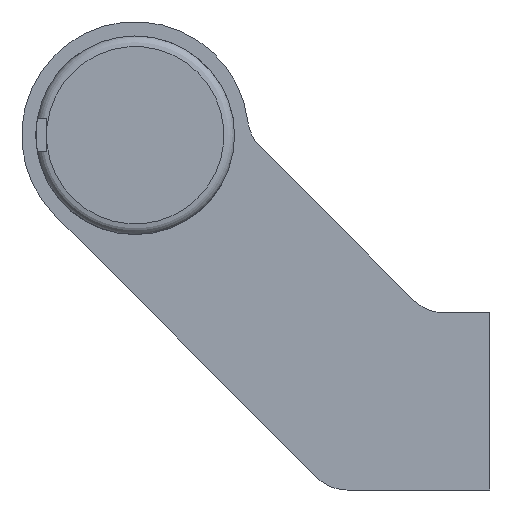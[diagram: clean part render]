
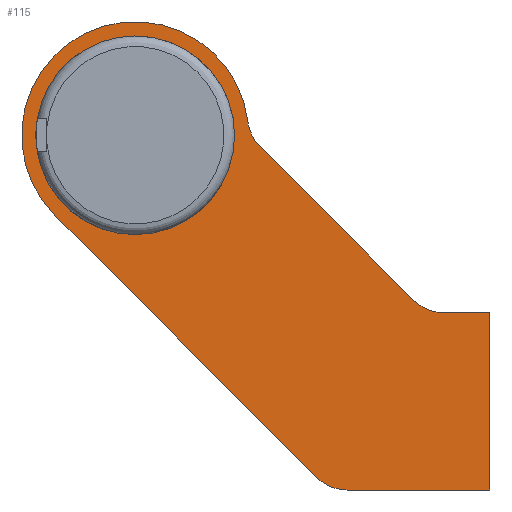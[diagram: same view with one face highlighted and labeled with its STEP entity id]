
A CAD part, left-side view. The second image highlights one B-rep face of the part: STEP entity #115.
In plain terms, the highlighted planar face has unit normal (-1, 0, 0).
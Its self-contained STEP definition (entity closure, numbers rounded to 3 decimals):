
#115 = ADVANCED_FACE( '', ( #215, #216 ), #217, .F. );
#215 = FACE_BOUND( '', #328, .T. );
#216 = FACE_OUTER_BOUND( '', #329, .T. );
#217 = PLANE( '', #330 );
#328 = EDGE_LOOP( '', ( #629 ) );
#329 = EDGE_LOOP( '', ( #630, #631, #632, #633, #634, #635, #636, #637, #638 ) );
#330 = AXIS2_PLACEMENT_3D( '', #639, #640, #641 );
#629 = ORIENTED_EDGE( '', *, *, #755, .T. );
#630 = ORIENTED_EDGE( '', *, *, #741, .F. );
#631 = ORIENTED_EDGE( '', *, *, #719, .F. );
#632 = ORIENTED_EDGE( '', *, *, #715, .F. );
#633 = ORIENTED_EDGE( '', *, *, #723, .F. );
#634 = ORIENTED_EDGE( '', *, *, #726, .F. );
#635 = ORIENTED_EDGE( '', *, *, #729, .T. );
#636 = ORIENTED_EDGE( '', *, *, #732, .F. );
#637 = ORIENTED_EDGE( '', *, *, #735, .T. );
#638 = ORIENTED_EDGE( '', *, *, #738, .F. );
#639 = CARTESIAN_POINT( '', ( -307., 50., 37.5 ) );
#640 = DIRECTION( '', ( 1., 0., 0. ) );
#641 = DIRECTION( '', ( 0., 0., -1. ) );
#715 = EDGE_CURVE( '', #840, #841, #842, .T. );
#719 = EDGE_CURVE( '', #841, #848, #849, .T. );
#723 = EDGE_CURVE( '', #855, #840, #856, .T. );
#726 = EDGE_CURVE( '', #860, #855, #861, .T. );
#729 = EDGE_CURVE( '', #860, #865, #866, .T. );
#732 = EDGE_CURVE( '', #870, #865, #871, .T. );
#735 = EDGE_CURVE( '', #870, #875, #876, .T. );
#738 = EDGE_CURVE( '', #880, #875, #881, .T. );
#741 = EDGE_CURVE( '', #848, #880, #885, .T. );
#755 = EDGE_CURVE( '', #907, #907, #908, .T. );
#840 = VERTEX_POINT( '', #1083 );
#841 = VERTEX_POINT( '', #1084 );
#842 = LINE( '', #1085, #1086 );
#848 = VERTEX_POINT( '', #1095 );
#849 = CIRCLE( '', #1096, 6. );
#855 = VERTEX_POINT( '', #1103 );
#856 = LINE( '', #1104, #1105 );
#860 = VERTEX_POINT( '', #1111 );
#861 = LINE( '', #1112, #1113 );
#865 = VERTEX_POINT( '', #1119 );
#866 = CIRCLE( '', #1120, 6. );
#870 = VERTEX_POINT( '', #1125 );
#871 = LINE( '', #1126, #1127 );
#875 = VERTEX_POINT( '', #1133 );
#876 = CIRCLE( '', #1134, 6. );
#880 = VERTEX_POINT( '', #1139 );
#881 = CIRCLE( '', #1140, 16. );
#885 = LINE( '', #1145, #1146 );
#907 = VERTEX_POINT( '', #1174 );
#908 = CIRCLE( '', #1175, 14. );
#1083 = CARTESIAN_POINT( '', ( -307., 0., -12.5 ) );
#1084 = CARTESIAN_POINT( '', ( -307., 20.142, -12.5 ) );
#1085 = CARTESIAN_POINT( '', ( -307., 0., -12.5 ) );
#1086 = VECTOR( '', #1265, 1000. );
#1095 = CARTESIAN_POINT( '', ( -307., 24.385, -10.743 ) );
#1096 = AXIS2_PLACEMENT_3D( '', #1269, #1270, #1271 );
#1103 = CARTESIAN_POINT( '', ( -307., 0., 12.5 ) );
#1104 = CARTESIAN_POINT( '', ( -307., 0., 12.5 ) );
#1105 = VECTOR( '', #1279, 1000. );
#1111 = CARTESIAN_POINT( '', ( -307., 6.515, 12.5 ) );
#1112 = CARTESIAN_POINT( '', ( -307., 6.515, 12.5 ) );
#1113 = VECTOR( '', #1282, 1000. );
#1119 = CARTESIAN_POINT( '', ( -307., 10.757, 14.257 ) );
#1120 = AXIS2_PLACEMENT_3D( '', #1285, #1286, #1287 );
#1125 = CARTESIAN_POINT( '', ( -307., 32.402, 35.902 ) );
#1126 = CARTESIAN_POINT( '', ( -307., 32.402, 35.902 ) );
#1127 = VECTOR( '', #1292, 1000. );
#1133 = CARTESIAN_POINT( '', ( -307., 34.116, 39.424 ) );
#1134 = AXIS2_PLACEMENT_3D( '', #1295, #1296, #1297 );
#1139 = CARTESIAN_POINT( '', ( -307., 61.314, 26.186 ) );
#1140 = AXIS2_PLACEMENT_3D( '', #1302, #1303, #1304 );
#1145 = CARTESIAN_POINT( '', ( -307., 24.385, -10.743 ) );
#1146 = VECTOR( '', #1309, 1000. );
#1174 = CARTESIAN_POINT( '', ( -307., 50., 23.5 ) );
#1175 = AXIS2_PLACEMENT_3D( '', #1337, #1338, #1339 );
#1265 = DIRECTION( '', ( 0., 1., 0. ) );
#1269 = CARTESIAN_POINT( '', ( -307., 20.142, -6.5 ) );
#1270 = DIRECTION( '', ( 1., 0., 0. ) );
#1271 = DIRECTION( '', ( 0., 0., -1. ) );
#1279 = DIRECTION( '', ( 0., 0., -1. ) );
#1282 = DIRECTION( '', ( 0., -1., 0. ) );
#1285 = CARTESIAN_POINT( '', ( -307., 6.515, 18.5 ) );
#1286 = DIRECTION( '', ( 1., 0., 0. ) );
#1287 = DIRECTION( '', ( 0., 0., -1. ) );
#1292 = DIRECTION( '', ( 0., -0.707, -0.707 ) );
#1295 = CARTESIAN_POINT( '', ( -307., 28.16, 40.145 ) );
#1296 = DIRECTION( '', ( 1., 0., 0. ) );
#1297 = DIRECTION( '', ( 0., 0., -1. ) );
#1302 = CARTESIAN_POINT( '', ( -307., 50., 37.5 ) );
#1303 = DIRECTION( '', ( 1., 0., 0. ) );
#1304 = DIRECTION( '', ( 0., 0., -1. ) );
#1309 = DIRECTION( '', ( 0., 0.707, 0.707 ) );
#1337 = CARTESIAN_POINT( '', ( -307., 50., 37.5 ) );
#1338 = DIRECTION( '', ( 1., 0., 0. ) );
#1339 = DIRECTION( '', ( 0., 0., -1. ) );
